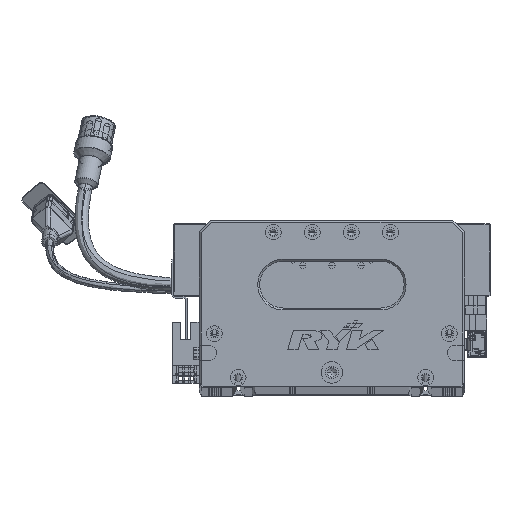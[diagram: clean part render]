
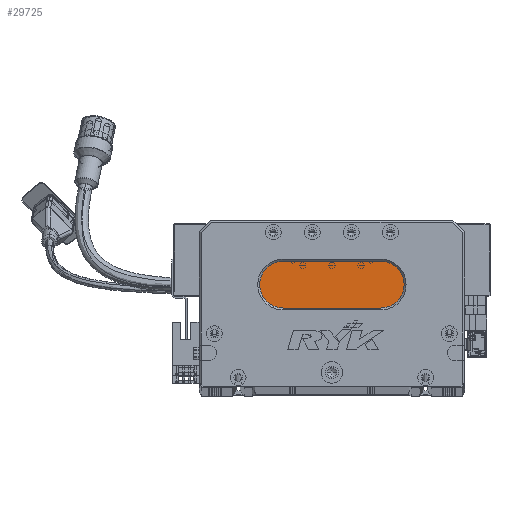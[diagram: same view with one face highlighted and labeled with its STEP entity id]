
A CAD part, top view. The second image highlights one B-rep face of the part: STEP entity #29725.
In plain terms, the highlighted planar face has unit normal (0, 0, 1) as drawn and (0, 0, -1) by its records, which use the part's own axes.
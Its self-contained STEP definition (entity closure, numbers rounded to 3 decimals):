
#752 = CIRCLE ( 'NONE', #116014, 12. ) ;
#10692 = CARTESIAN_POINT ( 'NONE',  ( 93., 40., 13. ) ) ;
#14636 = DIRECTION ( 'NONE',  ( -1., 0., 0. ) ) ;
#16192 = VERTEX_POINT ( 'NONE', #86119 ) ;
#23875 = DIRECTION ( 'NONE',  ( -1., 0., 0. ) ) ;
#26031 = ORIENTED_EDGE ( 'NONE', *, *, #89575, .T. ) ;
#29725 = ADVANCED_FACE ( 'NONE', ( #116614 ), #35741, .T. ) ;
#31995 = CIRCLE ( 'NONE', #128828, 12. ) ;
#35741 = PLANE ( 'NONE',  #72950 ) ;
#38029 = VERTEX_POINT ( 'NONE', #86713 ) ;
#42645 = AXIS2_PLACEMENT_3D ( 'NONE', #108197, #97435, #56631 ) ;
#42718 = ORIENTED_EDGE ( 'NONE', *, *, #71160, .T. ) ;
#43495 = EDGE_LOOP ( 'NONE', ( #42718, #90751, #26031, #80754, #47755 ) ) ;
#43930 = VERTEX_POINT ( 'NONE', #56558 ) ;
#47755 = ORIENTED_EDGE ( 'NONE', *, *, #102981, .T. ) ;
#52015 = VECTOR ( 'NONE', #89413, 1000. ) ;
#56558 = CARTESIAN_POINT ( 'NONE',  ( 93., 64., 13. ) ) ;
#56631 = DIRECTION ( 'NONE',  ( -1., 0., 0. ) ) ;
#58464 = CARTESIAN_POINT ( 'NONE',  ( 93., 64., 13. ) ) ;
#69235 = EDGE_CURVE ( 'NONE', #38029, #16192, #123226, .T. ) ;
#71160 = EDGE_CURVE ( 'NONE', #43930, #100381, #752, .T. ) ;
#71749 = LINE ( 'NONE', #10692, #78135 ) ;
#72950 = AXIS2_PLACEMENT_3D ( 'NONE', #106626, #77862, #14636 ) ;
#77862 = DIRECTION ( 'NONE',  ( 0., 0., -1. ) ) ;
#78135 = VECTOR ( 'NONE', #83361, 1000. ) ;
#79649 = CARTESIAN_POINT ( 'NONE',  ( 43., 40., 13. ) ) ;
#80754 = ORIENTED_EDGE ( 'NONE', *, *, #69235, .T. ) ;
#83361 = DIRECTION ( 'NONE',  ( -1., 0., 0. ) ) ;
#86119 = CARTESIAN_POINT ( 'NONE',  ( 43., 64., 13. ) ) ;
#86713 = CARTESIAN_POINT ( 'NONE',  ( 31., 52., 13. ) ) ;
#89413 = DIRECTION ( 'NONE',  ( 1., 0., 0. ) ) ;
#89575 = EDGE_CURVE ( 'NONE', #91214, #38029, #31995, .T. ) ;
#90463 = CARTESIAN_POINT ( 'NONE',  ( 43., 52., 13. ) ) ;
#90751 = ORIENTED_EDGE ( 'NONE', *, *, #99097, .T. ) ;
#91214 = VERTEX_POINT ( 'NONE', #79649 ) ;
#97435 = DIRECTION ( 'NONE',  ( 0., 0., -1. ) ) ;
#99097 = EDGE_CURVE ( 'NONE', #100381, #91214, #71749, .T. ) ;
#100381 = VERTEX_POINT ( 'NONE', #107145 ) ;
#102981 = EDGE_CURVE ( 'NONE', #16192, #43930, #127475, .T. ) ;
#106405 = DIRECTION ( 'NONE',  ( 0., 0., -1. ) ) ;
#106626 = CARTESIAN_POINT ( 'NONE',  ( 93., 52., 13. ) ) ;
#107145 = CARTESIAN_POINT ( 'NONE',  ( 93., 40., 13. ) ) ;
#108197 = CARTESIAN_POINT ( 'NONE',  ( 43., 52., 13. ) ) ;
#111567 = DIRECTION ( 'NONE',  ( -1., 0., 0. ) ) ;
#116014 = AXIS2_PLACEMENT_3D ( 'NONE', #116767, #106405, #23875 ) ;
#116614 = FACE_OUTER_BOUND ( 'NONE', #43495, .T. ) ;
#116767 = CARTESIAN_POINT ( 'NONE',  ( 93., 52., 13. ) ) ;
#123226 = CIRCLE ( 'NONE', #42645, 12. ) ;
#127475 = LINE ( 'NONE', #58464, #52015 ) ;
#128828 = AXIS2_PLACEMENT_3D ( 'NONE', #90463, #132264, #111567 ) ;
#132264 = DIRECTION ( 'NONE',  ( 0., 0., -1. ) ) ;
